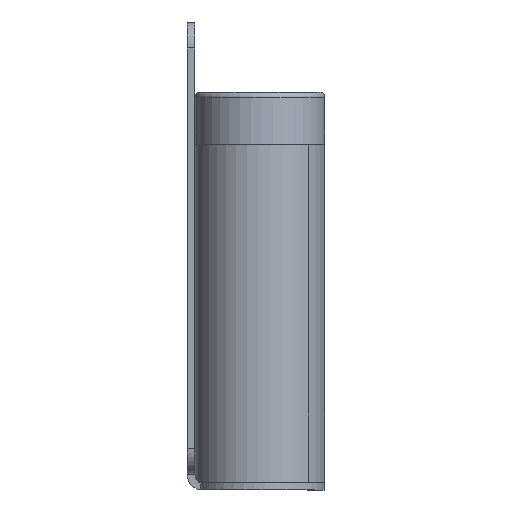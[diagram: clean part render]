
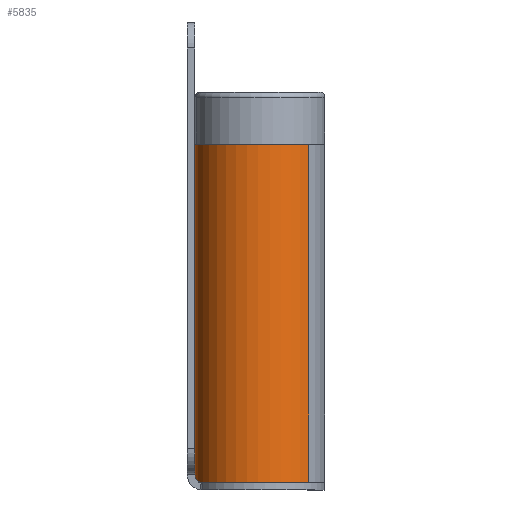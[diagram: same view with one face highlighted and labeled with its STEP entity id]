
A CAD part, left-side view. The second image highlights one B-rep face of the part: STEP entity #5835.
In plain terms, the highlighted cylindrical face has radius 12.5 mm (diameter 25 mm), a partial arc.
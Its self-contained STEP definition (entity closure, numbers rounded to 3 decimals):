
#153 = VERTEX_POINT ( 'NONE', #1296 ) ;
#321 = AXIS2_PLACEMENT_3D ( 'NONE', #669, #6420, #1992 ) ;
#350 = LINE ( 'NONE', #6766, #5220 ) ;
#384 = DIRECTION ( 'NONE',  ( 0., 0., 1. ) ) ;
#405 = FACE_OUTER_BOUND ( 'NONE', #1964, .T. ) ;
#476 = CARTESIAN_POINT ( 'NONE',  ( 0., -2., -12.5 ) ) ;
#669 = CARTESIAN_POINT ( 'NONE',  ( 0., -2., 0. ) ) ;
#1083 = EDGE_CURVE ( 'NONE', #3073, #7141, #4735, .T. ) ;
#1296 = CARTESIAN_POINT ( 'NONE',  ( 0., 63., -12.5 ) ) ;
#1365 = AXIS2_PLACEMENT_3D ( 'NONE', #7483, #1654, #6075 ) ;
#1654 = DIRECTION ( 'NONE',  ( 0., -1., 0. ) ) ;
#1964 = EDGE_LOOP ( 'NONE', ( #5817, #5910, #2130, #7680 ) ) ;
#1992 = DIRECTION ( 'NONE',  ( 0., 0., -1. ) ) ;
#2130 = ORIENTED_EDGE ( 'NONE', *, *, #2642, .F. ) ;
#2211 = DIRECTION ( 'NONE',  ( 0., -1., 0. ) ) ;
#2572 = EDGE_CURVE ( 'NONE', #3073, #153, #5480, .T. ) ;
#2642 = EDGE_CURVE ( 'NONE', #7754, #7141, #3743, .T. ) ;
#3073 = VERTEX_POINT ( 'NONE', #4309 ) ;
#3570 = DIRECTION ( 'NONE',  ( 0., -1., 0. ) ) ;
#3743 = CIRCLE ( 'NONE', #321, 12.5 ) ;
#4309 = CARTESIAN_POINT ( 'NONE',  ( 0., 63., 12.5 ) ) ;
#4687 = CARTESIAN_POINT ( 'NONE',  ( 0., 63., 0. ) ) ;
#4735 = LINE ( 'NONE', #4861, #7040 ) ;
#4861 = CARTESIAN_POINT ( 'NONE',  ( 0., 63., 12.5 ) ) ;
#5220 = VECTOR ( 'NONE', #3570, 1000. ) ;
#5480 = CIRCLE ( 'NONE', #6262, 12.5 ) ;
#5817 = ORIENTED_EDGE ( 'NONE', *, *, #2572, .F. ) ;
#5835 = ADVANCED_FACE ( 'NONE', ( #405 ), #7444, .T. ) ;
#5910 = ORIENTED_EDGE ( 'NONE', *, *, #1083, .T. ) ;
#6075 = DIRECTION ( 'NONE',  ( 0., 0., -1. ) ) ;
#6262 = AXIS2_PLACEMENT_3D ( 'NONE', #4687, #7256, #384 ) ;
#6420 = DIRECTION ( 'NONE',  ( 0., -1., 0. ) ) ;
#6683 = EDGE_CURVE ( 'NONE', #153, #7754, #350, .T. ) ;
#6766 = CARTESIAN_POINT ( 'NONE',  ( 0., 63., -12.5 ) ) ;
#7040 = VECTOR ( 'NONE', #2211, 1000. ) ;
#7141 = VERTEX_POINT ( 'NONE', #7833 ) ;
#7256 = DIRECTION ( 'NONE',  ( 0., 1., 0. ) ) ;
#7444 = CYLINDRICAL_SURFACE ( 'NONE', #1365, 12.5 ) ;
#7483 = CARTESIAN_POINT ( 'NONE',  ( 0., 63., 0. ) ) ;
#7680 = ORIENTED_EDGE ( 'NONE', *, *, #6683, .F. ) ;
#7754 = VERTEX_POINT ( 'NONE', #476 ) ;
#7833 = CARTESIAN_POINT ( 'NONE',  ( 0., -2., 12.5 ) ) ;
